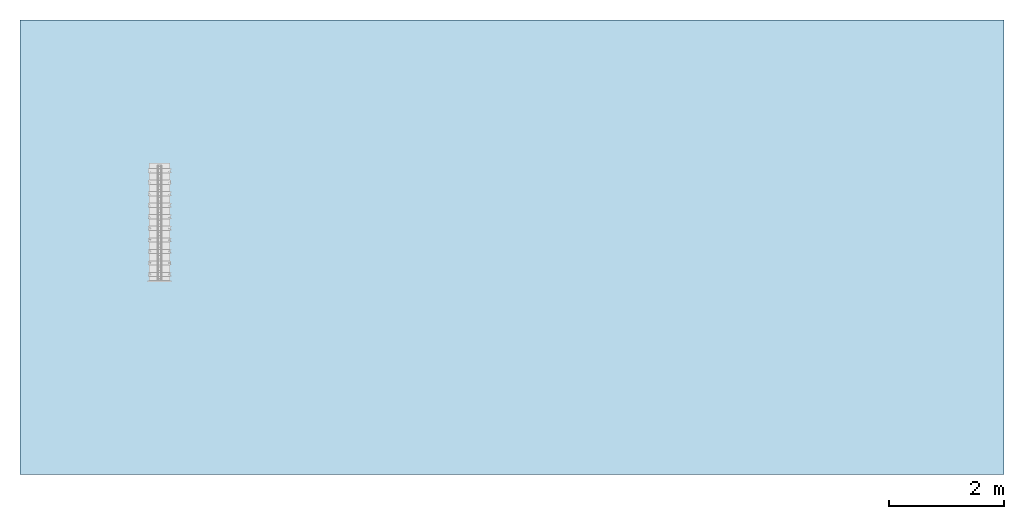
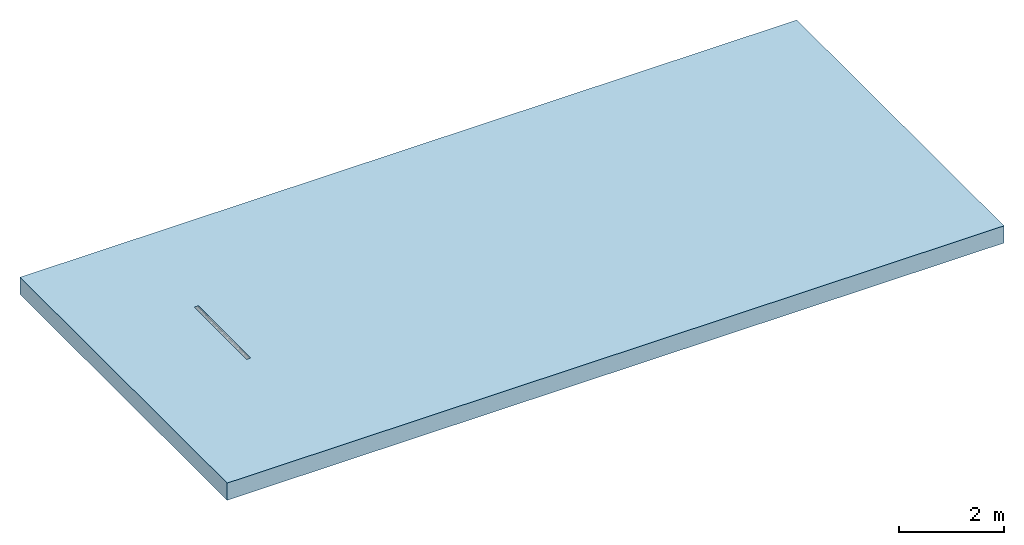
# One storey, incomplete: 1 slab, 1 opening.
"""IFC2X3 building model written with IfcOpenShell, lengths in millimetres."""

from ifc_helpers import new_model, entity, si_unit, converted_unit, direction, frame, frame_2d, origin, place, context, subcontext, project, spatial, polyline, rectangle, outline, extrude, material, layer, layer_set, layer_usage, element, save


model = new_model("IFC2X3")

# Units and contexts
model_context = context("Model", 3, precision=1e-06, world=origin(), true_north=direction((2.0, 6.12303176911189e-17, 1.0)))
context_of_model = context(None, 3, precision=1e-06, world=origin(), true_north=direction((2.0, 6.12303176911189e-17, 1.0)))
body_context = subcontext(model_context, "Body", "Model", "MODEL_VIEW")
ifc_project = project(units=[si_unit("LENGTHUNIT", "METRE", prefix="MILLI"), si_unit("AREAUNIT", "SQUARE_METRE", prefix="MILLI"), si_unit("VOLUMEUNIT", "CUBIC_METRE", prefix="MILLI"), converted_unit("PLANEANGLEUNIT", "DEGREE", entity("IfcRatioMeasure", 0.0174532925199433), si_unit("PLANEANGLEUNIT", "RADIAN"), dimensions=[0, 0, 0, 0, 0, 0, 0]), si_unit("TIMEUNIT", "SECOND")], contexts=[model_context, context_of_model])

# Site, building, storey
site_placement = place(None, origin())
site = spatial("IfcSite", under=ifc_project, at=site_placement, Name="Default", CompositionType="ELEMENT")
building_placement = place(site_placement, origin())
building = spatial("IfcBuilding", under=site, at=building_placement, CompositionType="ELEMENT")
storey_placement = place(building_placement, origin())
storey = spatial("IfcBuildingStorey", under=building, at=storey_placement, Name="Level 1", CompositionType="ELEMENT", Elevation=0.0)

# Slab, opening
ifc_material = material(Name="Plant")
ifc_layer = layer(ifc_material, 400.0)
ifc_layer_set = layer_set([ifc_layer], Name="Floor:Generic Floor - 400mm")
ifc_layer_usage = layer_usage(ifc_layer_set, "AXIS3", "POSITIVE", 0.0)
slab_placement = place(storey_placement, origin())
slab = element("IfcSlab", 1, at=slab_placement, inside=storey, material=ifc_layer_usage, Name="Floor:Generic Floor - 400mm", ObjectType="Floor:Generic Floor - 400mm", PredefinedType="FLOOR", context=body_context, shape_type="SweptSolid", body=[
    extrude(rectangle(XDim=7900.0, YDim=17100.0, at=frame_2d((0.0, 0.0), x_axis=(0.0, -1.0))), frame((-8097.86261836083, 1059.07636553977, 0.0), z_axis=(0.0, 0.0, -1.0), x_axis=(-1.0, 0.0, 0.0)), (0.0, 0.0, 1.0), 400.0),
])
opening_placement = place(slab_placement, origin())
element("IfcOpeningElement", 2, at=opening_placement, cuts=slab, ObjectType="Opening", context=body_context, shape_type="SweptSolid", body=[
    extrude(outline(polyline([(-165.0, 45.0), (-165.0, -45.0), (-135.0, -45.0), (-135.0, -207.5), (435.0, -207.5), (435.0, 207.499999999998), (-135.0, 207.499999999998), (-135.0, 45.0), (-165.0, 45.0)])), frame((-14222.8030800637, 486.472255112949, -165.0), z_axis=(0.0, -1.0, 0.0), x_axis=(0.0, 0.0, -1.0)), (0.0, 0.0, -1.0), 2000.0),
])

save(model, "model.ifc")
